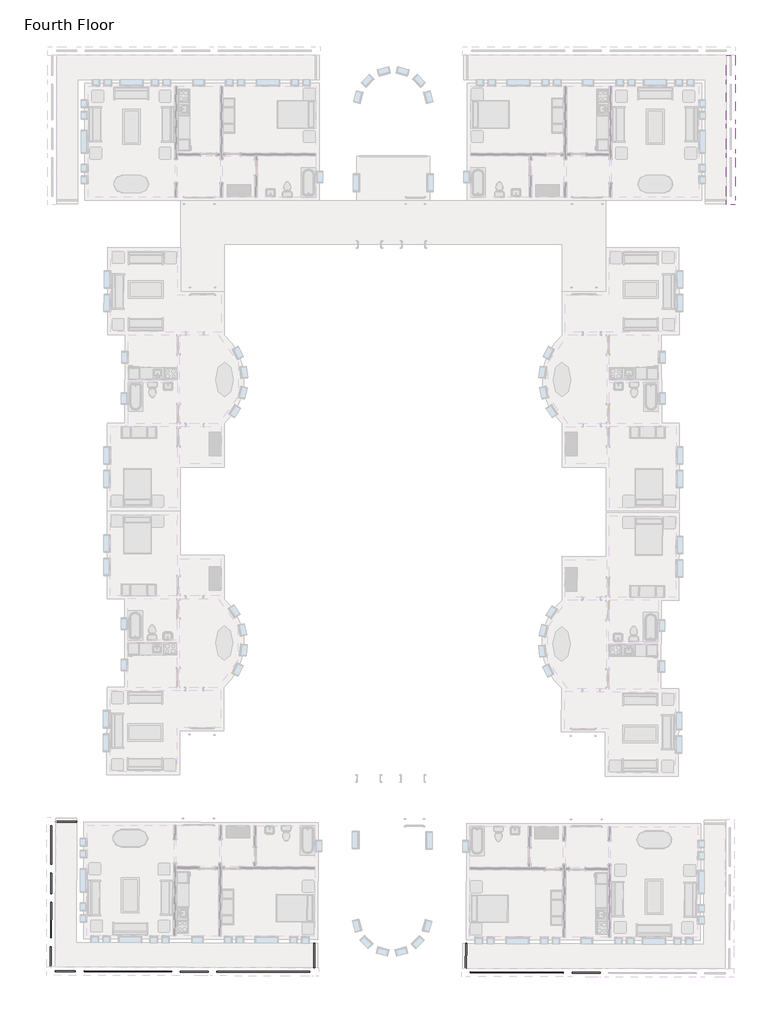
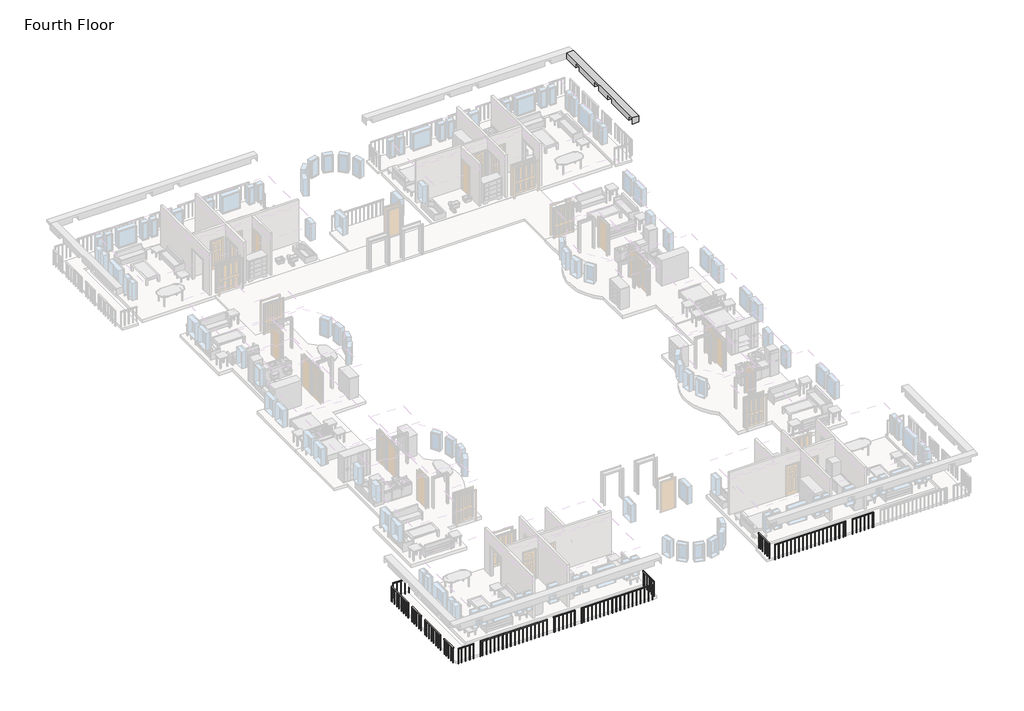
# One storey, part 4 of 8: 13 railings, 1 beam.
"""IFC4 building model written with IfcOpenShell, lengths in millimetres."""

from ifc_helpers import new_model, si_unit, frame, origin, place, context, project, spatial, polyline, outline, extrude, faceted_brep, element, save

model = new_model("IFC4")

# Units and contexts
model_context = context("Model", 3, world=origin())
ifc_project = project(units=[si_unit("LENGTHUNIT", "METRE", prefix="MILLI")], contexts=[model_context])

# Site, building, storey
site = spatial("IfcSite", under=ifc_project)
building = spatial("IfcBuilding", under=site)
storey = spatial("IfcBuildingStorey", under=building, Name="Fourth Floor", Elevation=9144.0)

# Beam
placement = place(None, origin())
element("IfcBeam", 1, ObjectType="M_Concrete-Rectangular Beam : 450 x 450", at=placement, inside=storey, context=model_context, shape_type="Brep", body=[
    faceted_brep([(-1193.3416203, -3743.8811614, 12192.0), (-1643.3416203, -3743.8811614, 12192.0), (-1643.3416203, -3743.8811614, 11742.0), (-1193.3416203, -3743.8811614, 11742.0), (-1193.3416203, 4031.1188386, 12192.0), (-1643.3416203, 4031.1188386, 12192.0), (-1643.3416203, 4031.1188386, 12042.0), (-1643.3416203, 4031.1188386, 11742.0), (-1643.3416203, 2981.1188386, 11742.0), (-1643.3416203, 2981.1188386, 12042.0), (-1643.3416203, 2531.1188386, 12042.0), (-1643.3416203, 2531.1188386, 11742.0), (-1643.3416203, 681.1188386, 11742.0), (-1643.3416203, 681.1188386, 12042.0), (-1643.3416203, 231.1188386, 12042.0), (-1643.3416203, 231.1188386, 11742.0), (-1643.3416203, -845.3811614, 11742.0), (-1643.3416203, -845.3811614, 12042.0), (-1643.3416203, -1295.3811614, 12042.0), (-1643.3416203, -1295.3811614, 11742.0), (-1643.3416203, -3289.8811614, 11742.0), (-1643.3416203, -3289.8811614, 12042.0), (-1643.3416203, -3739.8811614, 12042.0), (-1643.3416203, -3739.8811614, 11742.0), (-1193.3416203, -3739.8811614, 11742.0), (-1193.3416203, -3739.8811614, 12042.0), (-1193.3416203, -3289.8811614, 12042.0), (-1193.3416203, -3289.8811614, 11742.0), (-1193.3416203, -1295.3811614, 11742.0), (-1193.3416203, -1295.3811614, 12042.0), (-1193.3416203, -845.3811614, 12042.0), (-1193.3416203, -845.3811614, 11742.0), (-1193.3416203, 231.1188386, 11742.0), (-1193.3416203, 231.1188386, 12042.0), (-1193.3416203, 681.1188386, 12042.0), (-1193.3416203, 681.1188386, 11742.0), (-1193.3416203, 2531.1188386, 11742.0), (-1193.3416203, 2531.1188386, 12042.0), (-1193.3416203, 2981.1188386, 12042.0), (-1193.3416203, 2981.1188386, 11742.0), (-1193.3416203, 4031.1188386, 11742.0), (-1193.3416203, 4031.1188386, 12042.0)], [[[0, 1, 2, 3]], [[1, 0, 4, 5]], [[2, 1, 5, 6, 7, 8, 9, 10, 11, 12, 13, 14, 15, 16, 17, 18, 19, 20, 21, 22, 23]], [[3, 2, 23, 24]], [[0, 3, 24, 25, 26, 27, 28, 29, 30, 31, 32, 33, 34, 35, 36, 37, 38, 39, 40, 41, 4]], [[5, 4, 41, 40, 7, 6]], [[10, 37, 36, 11]], [[38, 9, 8, 39]], [[37, 10, 9, 38]], [[7, 40, 39, 8]], [[14, 33, 32, 15]], [[34, 13, 12, 35]], [[33, 14, 13, 34]], [[11, 36, 35, 12]], [[18, 29, 28, 19]], [[30, 17, 16, 31]], [[29, 18, 17, 30]], [[15, 32, 31, 16]], [[26, 21, 20, 27]], [[25, 22, 21, 26]], [[22, 25, 24, 23]], [[19, 28, 27, 20]]]),
])

# Railings
element("IfcRailing", 2, ObjectType="1100mm", at=placement, inside=storey, context=model_context, shape_type="SweptSolid", body=[
    extrude(outline(polyline([(-14954.7371889, -43662.8708828), (-14954.5924462, -43612.8710923), (-10112.6127346, -43626.8879749), (-10112.7574773, -43676.8877654), (-14954.7371889, -43662.8708828)])), frame((0.0, 0.0, 10194.0), z_axis=(0.0, 0.0, 1.0), x_axis=(1.0, 0.0, 0.0)), (0.0, 0.0, 1.0), 50.0),
    extrude(outline(polyline([(-10292.1481682, -43638.8682963), (-10267.1482729, -43638.9406676), (-10267.2206443, -43663.9405629), (-10292.2205395, -43663.8681915), (-10292.1481682, -43638.8682963)])), frame((0.0, 0.0, 9144.0), z_axis=(0.0, 0.0, 1.0), x_axis=(1.0, 0.0, 0.0)), (0.0, 0.0, 1.0), 1050.0),
    extrude(outline(polyline([(-10567.1470159, -43638.0722115), (-10542.1471207, -43638.1445828), (-10542.219492, -43663.144478), (-10567.2193872, -43663.0721067), (-10567.1470159, -43638.0722115)])), frame((0.0, 0.0, 9144.0), z_axis=(0.0, 0.0, 1.0), x_axis=(1.0, 0.0, 0.0)), (0.0, 0.0, 1.0), 1050.0),
    extrude(outline(polyline([(-10842.1458636, -43637.2761266), (-10817.1459684, -43637.348498), (-10817.2183397, -43662.3483932), (-10842.218235, -43662.2760219), (-10842.1458636, -43637.2761266)])), frame((0.0, 0.0, 9144.0), z_axis=(0.0, 0.0, 1.0), x_axis=(1.0, 0.0, 0.0)), (0.0, 0.0, 1.0), 1050.0),
    extrude(outline(polyline([(-11117.1447113, -43636.4800418), (-11092.1448161, -43636.5524131), (-11092.2171874, -43661.5523084), (-11117.2170827, -43661.479937), (-11117.1447113, -43636.4800418)])), frame((0.0, 0.0, 9144.0), z_axis=(0.0, 0.0, 1.0), x_axis=(1.0, 0.0, 0.0)), (0.0, 0.0, 1.0), 1050.0),
    extrude(outline(polyline([(-11392.1435591, -43635.683957), (-11367.1436638, -43635.7563283), (-11367.2160352, -43660.7562236), (-11392.2159304, -43660.6838522), (-11392.1435591, -43635.683957)])), frame((0.0, 0.0, 9144.0), z_axis=(0.0, 0.0, 1.0), x_axis=(1.0, 0.0, 0.0)), (0.0, 0.0, 1.0), 1050.0),
    extrude(outline(polyline([(-11667.1424068, -43634.8878721), (-11642.1425115, -43634.9602435), (-11642.2148829, -43659.9601387), (-11667.2147781, -43659.8877674), (-11667.1424068, -43634.8878721)])), frame((0.0, 0.0, 9144.0), z_axis=(0.0, 0.0, 1.0), x_axis=(1.0, 0.0, 0.0)), (0.0, 0.0, 1.0), 1050.0),
    extrude(outline(polyline([(-11942.1412545, -43634.0917873), (-11917.1413593, -43634.1641587), (-11917.2137306, -43659.1640539), (-11942.2136259, -43659.0916826), (-11942.1412545, -43634.0917873)])), frame((0.0, 0.0, 9144.0), z_axis=(0.0, 0.0, 1.0), x_axis=(1.0, 0.0, 0.0)), (0.0, 0.0, 1.0), 1050.0),
    extrude(outline(polyline([(-12217.1401022, -43633.2957025), (-12192.140207, -43633.3680738), (-12192.2125783, -43658.3679691), (-12217.2124736, -43658.2955977), (-12217.1401022, -43633.2957025)])), frame((0.0, 0.0, 9144.0), z_axis=(0.0, 0.0, 1.0), x_axis=(1.0, 0.0, 0.0)), (0.0, 0.0, 1.0), 1050.0),
    extrude(outline(polyline([(-12492.13895, -43632.4996177), (-12467.1390547, -43632.571989), (-12467.2114261, -43657.5718843), (-12492.2113213, -43657.4995129), (-12492.13895, -43632.4996177)])), frame((0.0, 0.0, 9144.0), z_axis=(0.0, 0.0, 1.0), x_axis=(1.0, 0.0, 0.0)), (0.0, 0.0, 1.0), 1050.0),
    extrude(outline(polyline([(-12767.1377977, -43631.7035328), (-12742.1379024, -43631.7759042), (-12742.2102738, -43656.7757994), (-12767.210169, -43656.7034281), (-12767.1377977, -43631.7035328)])), frame((0.0, 0.0, 9144.0), z_axis=(0.0, 0.0, 1.0), x_axis=(1.0, 0.0, 0.0)), (0.0, 0.0, 1.0), 1050.0),
    extrude(outline(polyline([(-13042.1366454, -43630.907448), (-13017.1367502, -43630.9798194), (-13017.2091215, -43655.9797146), (-13042.2090168, -43655.9073433), (-13042.1366454, -43630.907448)])), frame((0.0, 0.0, 9144.0), z_axis=(0.0, 0.0, 1.0), x_axis=(1.0, 0.0, 0.0)), (0.0, 0.0, 1.0), 1050.0),
    extrude(outline(polyline([(-13317.1354931, -43630.1113632), (-13292.1355979, -43630.1837345), (-13292.2079692, -43655.1836298), (-13317.2078645, -43655.1112584), (-13317.1354931, -43630.1113632)])), frame((0.0, 0.0, 9144.0), z_axis=(0.0, 0.0, 1.0), x_axis=(1.0, 0.0, 0.0)), (0.0, 0.0, 1.0), 1050.0),
    extrude(outline(polyline([(-13592.1343409, -43629.3152784), (-13567.1344456, -43629.3876497), (-13567.206817, -43654.387545), (-13592.2067122, -43654.3151736), (-13592.1343409, -43629.3152784)])), frame((0.0, 0.0, 9144.0), z_axis=(0.0, 0.0, 1.0), x_axis=(1.0, 0.0, 0.0)), (0.0, 0.0, 1.0), 1050.0),
    extrude(outline(polyline([(-13867.1331886, -43628.5191935), (-13842.1332933, -43628.5915649), (-13842.2056647, -43653.5914601), (-13867.2055599, -43653.5190888), (-13867.1331886, -43628.5191935)])), frame((0.0, 0.0, 9144.0), z_axis=(0.0, 0.0, 1.0), x_axis=(1.0, 0.0, 0.0)), (0.0, 0.0, 1.0), 1050.0),
    extrude(outline(polyline([(-14142.1320363, -43627.7231087), (-14117.1321411, -43627.7954801), (-14117.2045124, -43652.7953753), (-14142.2044076, -43652.723004), (-14142.1320363, -43627.7231087)])), frame((0.0, 0.0, 9144.0), z_axis=(0.0, 0.0, 1.0), x_axis=(1.0, 0.0, 0.0)), (0.0, 0.0, 1.0), 1050.0),
    extrude(outline(polyline([(-14417.130884, -43626.9270239), (-14392.1309888, -43626.9993952), (-14392.2033601, -43651.9992905), (-14417.2032554, -43651.9269191), (-14417.130884, -43626.9270239)])), frame((0.0, 0.0, 9144.0), z_axis=(0.0, 0.0, 1.0), x_axis=(1.0, 0.0, 0.0)), (0.0, 0.0, 1.0), 1050.0),
    extrude(outline(polyline([(-14692.1297317, -43626.1309391), (-14667.1298365, -43626.2033104), (-14667.2022078, -43651.2032057), (-14692.2021031, -43651.1308343), (-14692.1297317, -43626.1309391)])), frame((0.0, 0.0, 9144.0), z_axis=(0.0, 0.0, 1.0), x_axis=(1.0, 0.0, 0.0)), (0.0, 0.0, 1.0), 1050.0),
    extrude(outline(polyline([(-10137.6488155, -43639.3155512), (-10112.6489203, -43639.3879226), (-10112.7212916, -43664.3878178), (-10137.7211869, -43664.3154465), (-10137.6488155, -43639.3155512)])), frame((0.0, 0.0, 9144.0), z_axis=(0.0, 0.0, 1.0), x_axis=(1.0, 0.0, 0.0)), (0.0, 0.0, 1.0), 1050.0),
    extrude(outline(polyline([(-14954.6286318, -43625.3710399), (-14929.6287366, -43625.4434113), (-14929.7011079, -43650.4433065), (-14954.7010032, -43650.3709351), (-14954.6286318, -43625.3710399)])), frame((0.0, 0.0, 9144.0), z_axis=(0.0, 0.0, 1.0), x_axis=(1.0, 0.0, 0.0)), (0.0, 0.0, 1.0), 1050.0),
])
element("IfcRailing", 3, ObjectType="1100mm", at=placement, inside=storey, context=model_context, shape_type="SweptSolid", body=[
    extrude(outline(polyline([(-9662.7593629, -43678.1904497), (-9662.6146202, -43628.1906592), (-8212.6206958, -43632.3881974), (-8212.7654385, -43682.3879879), (-9662.7593629, -43678.1904497)])), frame((0.0, 0.0, 10194.0), z_axis=(0.0, 0.0, 1.0), x_axis=(1.0, 0.0, 0.0)), (0.0, 0.0, 1.0), 50.0),
    extrude(outline(polyline([(-8300.1565149, -43644.6348453), (-8275.1566196, -43644.7072166), (-8275.228991, -43669.7071119), (-8300.2288862, -43669.6347405), (-8300.1565149, -43644.6348453)])), frame((0.0, 0.0, 9144.0), z_axis=(0.0, 0.0, 1.0), x_axis=(1.0, 0.0, 0.0)), (0.0, 0.0, 1.0), 1050.0),
    extrude(outline(polyline([(-8575.1553626, -43643.8387604), (-8550.1554673, -43643.9111318), (-8550.2278387, -43668.911027), (-8575.2277339, -43668.8386557), (-8575.1553626, -43643.8387604)])), frame((0.0, 0.0, 9144.0), z_axis=(0.0, 0.0, 1.0), x_axis=(1.0, 0.0, 0.0)), (0.0, 0.0, 1.0), 1050.0),
    extrude(outline(polyline([(-8850.1542103, -43643.0426756), (-8825.1543151, -43643.115047), (-8825.2266864, -43668.1149422), (-8850.2265816, -43668.0425709), (-8850.1542103, -43643.0426756)])), frame((0.0, 0.0, 9144.0), z_axis=(0.0, 0.0, 1.0), x_axis=(1.0, 0.0, 0.0)), (0.0, 0.0, 1.0), 1050.0),
    extrude(outline(polyline([(-9125.153058, -43642.2465908), (-9100.1531628, -43642.3189621), (-9100.2255341, -43667.3188574), (-9125.2254294, -43667.246486), (-9125.153058, -43642.2465908)])), frame((0.0, 0.0, 9144.0), z_axis=(0.0, 0.0, 1.0), x_axis=(1.0, 0.0, 0.0)), (0.0, 0.0, 1.0), 1050.0),
    extrude(outline(polyline([(-9400.1519057, -43641.450506), (-9375.1520105, -43641.5228773), (-9375.2243818, -43666.5227726), (-9400.2242771, -43666.4504012), (-9400.1519057, -43641.450506)])), frame((0.0, 0.0, 9144.0), z_axis=(0.0, 0.0, 1.0), x_axis=(1.0, 0.0, 0.0)), (0.0, 0.0, 1.0), 1050.0),
    extrude(outline(polyline([(-8237.6567767, -43644.8157736), (-8212.6568815, -43644.888145), (-8212.7292528, -43669.8880402), (-8237.7291481, -43669.8156689), (-8237.6567767, -43644.8157736)])), frame((0.0, 0.0, 9144.0), z_axis=(0.0, 0.0, 1.0), x_axis=(1.0, 0.0, 0.0)), (0.0, 0.0, 1.0), 1050.0),
    extrude(outline(polyline([(-9662.6508058, -43640.6906068), (-9637.6509106, -43640.7629782), (-9637.7232819, -43665.7628734), (-9662.7231772, -43665.6905021), (-9662.6508058, -43640.6906068)])), frame((0.0, 0.0, 9144.0), z_axis=(0.0, 0.0, 1.0), x_axis=(1.0, 0.0, 0.0)), (0.0, 0.0, 1.0), 1050.0),
])
element("IfcRailing", 4, ObjectType="1100mm", at=placement, inside=storey, context=model_context, shape_type="SweptSolid", body=[
    extrude(outline(polyline([(-15154.0126374, -43412.2929595), (-15204.0124279, -43412.1482168), (-15200.3214891, -42137.1535592), (-15150.3216986, -42137.2983019), (-15154.0126374, -43412.2929595)])), frame((0.0, 0.0, 10194.0), z_axis=(0.0, 0.0, 1.0), x_axis=(1.0, 0.0, 0.0)), (0.0, 0.0, 1.0), 50.0),
    extrude(outline(polyline([(-15188.3643266, -42324.6889592), (-15188.2919553, -42299.689064), (-15163.29206, -42299.7614353), (-15163.3644314, -42324.7613306), (-15188.3643266, -42324.6889592)])), frame((0.0, 0.0, 9144.0), z_axis=(0.0, 0.0, 1.0), x_axis=(1.0, 0.0, 0.0)), (0.0, 0.0, 1.0), 1050.0),
    extrude(outline(polyline([(-15189.1604114, -42599.6878069), (-15189.0880401, -42574.6879117), (-15164.0881448, -42574.760283), (-15164.1605162, -42599.7601783), (-15189.1604114, -42599.6878069)])), frame((0.0, 0.0, 9144.0), z_axis=(0.0, 0.0, 1.0), x_axis=(1.0, 0.0, 0.0)), (0.0, 0.0, 1.0), 1050.0),
    extrude(outline(polyline([(-15189.9564963, -42874.6866547), (-15189.8841249, -42849.6867594), (-15164.8842297, -42849.7591308), (-15164.956601, -42874.759026), (-15189.9564963, -42874.6866547)])), frame((0.0, 0.0, 9144.0), z_axis=(0.0, 0.0, 1.0), x_axis=(1.0, 0.0, 0.0)), (0.0, 0.0, 1.0), 1050.0),
    extrude(outline(polyline([(-15190.7525811, -43149.6855024), (-15190.6802097, -43124.6856071), (-15165.6803145, -43124.7579785), (-15165.7526858, -43149.7578737), (-15190.7525811, -43149.6855024)])), frame((0.0, 0.0, 9144.0), z_axis=(0.0, 0.0, 1.0), x_axis=(1.0, 0.0, 0.0)), (0.0, 0.0, 1.0), 1050.0),
    extrude(outline(polyline([(-15187.8939128, -42162.1896401), (-15187.8215415, -42137.1897449), (-15162.8216462, -42137.2621162), (-15162.8940176, -42162.2620115), (-15187.8939128, -42162.1896401)])), frame((0.0, 0.0, 9144.0), z_axis=(0.0, 0.0, 1.0), x_axis=(1.0, 0.0, 0.0)), (0.0, 0.0, 1.0), 1050.0),
    extrude(outline(polyline([(-15191.5124802, -43412.1844025), (-15191.4401089, -43387.1845072), (-15166.4402136, -43387.2568786), (-15166.512585, -43412.2567738), (-15191.5124802, -43412.1844025)])), frame((0.0, 0.0, 9144.0), z_axis=(0.0, 0.0, 1.0), x_axis=(1.0, 0.0, 0.0)), (0.0, 0.0, 1.0), 1050.0),
])
element("IfcRailing", 5, ObjectType="1100mm", at=placement, inside=storey, context=model_context, shape_type="SweptSolid", body=[
    extrude(outline(polyline([(-23286.0575364, -43588.7526169), (-23286.2022791, -43638.7524074), (-28128.1819906, -43624.7355247), (-28128.0372479, -43574.7357342), (-23286.0575364, -43588.7526169)])), frame((0.0, 0.0, 10194.0), z_axis=(0.0, 0.0, 1.0), x_axis=(1.0, 0.0, 0.0)), (0.0, 0.0, 1.0), 50.0),
    extrude(outline(polyline([(-27948.5741857, -43587.7553081), (-27948.6465571, -43612.7552034), (-27973.6464523, -43612.682832), (-27973.574081, -43587.6829368), (-27948.5741857, -43587.7553081)])), frame((0.0, 0.0, 9144.0), z_axis=(0.0, 0.0, 1.0), x_axis=(1.0, 0.0, 0.0)), (0.0, 0.0, 1.0), 1050.0),
    extrude(outline(polyline([(-27673.575338, -43588.551393), (-27673.6477093, -43613.5512882), (-27698.6476046, -43613.4789169), (-27698.5752332, -43588.4790216), (-27673.575338, -43588.551393)])), frame((0.0, 0.0, 9144.0), z_axis=(0.0, 0.0, 1.0), x_axis=(1.0, 0.0, 0.0)), (0.0, 0.0, 1.0), 1050.0),
    extrude(outline(polyline([(-27398.5764903, -43589.3474778), (-27398.6488616, -43614.347373), (-27423.6487569, -43614.2750017), (-27423.5763855, -43589.2751064), (-27398.5764903, -43589.3474778)])), frame((0.0, 0.0, 9144.0), z_axis=(0.0, 0.0, 1.0), x_axis=(1.0, 0.0, 0.0)), (0.0, 0.0, 1.0), 1050.0),
    extrude(outline(polyline([(-27123.5776425, -43590.1435626), (-27123.6500139, -43615.1434579), (-27148.6499091, -43615.0710865), (-27148.5775378, -43590.0711913), (-27123.5776425, -43590.1435626)])), frame((0.0, 0.0, 9144.0), z_axis=(0.0, 0.0, 1.0), x_axis=(1.0, 0.0, 0.0)), (0.0, 0.0, 1.0), 1050.0),
    extrude(outline(polyline([(-26848.5787948, -43590.9396474), (-26848.6511662, -43615.9395427), (-26873.6510614, -43615.8671713), (-26873.5786901, -43590.8672761), (-26848.5787948, -43590.9396474)])), frame((0.0, 0.0, 9144.0), z_axis=(0.0, 0.0, 1.0), x_axis=(1.0, 0.0, 0.0)), (0.0, 0.0, 1.0), 1050.0),
    extrude(outline(polyline([(-26573.5799471, -43591.7357323), (-26573.6523184, -43616.7356275), (-26598.6522137, -43616.6632562), (-26598.5798423, -43591.6633609), (-26573.5799471, -43591.7357323)])), frame((0.0, 0.0, 9144.0), z_axis=(0.0, 0.0, 1.0), x_axis=(1.0, 0.0, 0.0)), (0.0, 0.0, 1.0), 1050.0),
    extrude(outline(polyline([(-26298.5810994, -43592.5318171), (-26298.6534707, -43617.5317123), (-26323.653366, -43617.459341), (-26323.5809946, -43592.4594458), (-26298.5810994, -43592.5318171)])), frame((0.0, 0.0, 9144.0), z_axis=(0.0, 0.0, 1.0), x_axis=(1.0, 0.0, 0.0)), (0.0, 0.0, 1.0), 1050.0),
    extrude(outline(polyline([(-26023.5822516, -43593.3279019), (-26023.654623, -43618.3277972), (-26048.6545182, -43618.2554258), (-26048.5821469, -43593.2555306), (-26023.5822516, -43593.3279019)])), frame((0.0, 0.0, 9144.0), z_axis=(0.0, 0.0, 1.0), x_axis=(1.0, 0.0, 0.0)), (0.0, 0.0, 1.0), 1050.0),
    extrude(outline(polyline([(-25748.5834039, -43594.1239868), (-25748.6557753, -43619.123882), (-25773.6556705, -43619.0515107), (-25773.5832992, -43594.0516154), (-25748.5834039, -43594.1239868)])), frame((0.0, 0.0, 9144.0), z_axis=(0.0, 0.0, 1.0), x_axis=(1.0, 0.0, 0.0)), (0.0, 0.0, 1.0), 1050.0),
    extrude(outline(polyline([(-25473.5845562, -43594.9200716), (-25473.6569275, -43619.9199668), (-25498.6568228, -43619.8475955), (-25498.5844514, -43594.8477002), (-25473.5845562, -43594.9200716)])), frame((0.0, 0.0, 9144.0), z_axis=(0.0, 0.0, 1.0), x_axis=(1.0, 0.0, 0.0)), (0.0, 0.0, 1.0), 1050.0),
    extrude(outline(polyline([(-25198.5857085, -43595.7161564), (-25198.6580798, -43620.7160517), (-25223.6579751, -43620.6436803), (-25223.5856037, -43595.6437851), (-25198.5857085, -43595.7161564)])), frame((0.0, 0.0, 9144.0), z_axis=(0.0, 0.0, 1.0), x_axis=(1.0, 0.0, 0.0)), (0.0, 0.0, 1.0), 1050.0),
    extrude(outline(polyline([(-24923.5868608, -43596.5122412), (-24923.6592321, -43621.5121365), (-24948.6591273, -43621.4397651), (-24948.586756, -43596.4398699), (-24923.5868608, -43596.5122412)])), frame((0.0, 0.0, 9144.0), z_axis=(0.0, 0.0, 1.0), x_axis=(1.0, 0.0, 0.0)), (0.0, 0.0, 1.0), 1050.0),
    extrude(outline(polyline([(-24648.588013, -43597.3083261), (-24648.6603844, -43622.3082213), (-24673.6602796, -43622.23585), (-24673.5879083, -43597.2359547), (-24648.588013, -43597.3083261)])), frame((0.0, 0.0, 9144.0), z_axis=(0.0, 0.0, 1.0), x_axis=(1.0, 0.0, 0.0)), (0.0, 0.0, 1.0), 1050.0),
    extrude(outline(polyline([(-24373.5891653, -43598.1044109), (-24373.6615367, -43623.1043061), (-24398.6614319, -43623.0319348), (-24398.5890606, -43598.0320395), (-24373.5891653, -43598.1044109)])), frame((0.0, 0.0, 9144.0), z_axis=(0.0, 0.0, 1.0), x_axis=(1.0, 0.0, 0.0)), (0.0, 0.0, 1.0), 1050.0),
    extrude(outline(polyline([(-24098.5903176, -43598.9004957), (-24098.6626889, -43623.900391), (-24123.6625842, -43623.8280196), (-24123.5902128, -43598.8281244), (-24098.5903176, -43598.9004957)])), frame((0.0, 0.0, 9144.0), z_axis=(0.0, 0.0, 1.0), x_axis=(1.0, 0.0, 0.0)), (0.0, 0.0, 1.0), 1050.0),
    extrude(outline(polyline([(-23823.5914699, -43599.6965805), (-23823.6638412, -43624.6964758), (-23848.6637365, -43624.6241044), (-23848.5913651, -43599.6242092), (-23823.5914699, -43599.6965805)])), frame((0.0, 0.0, 9144.0), z_axis=(0.0, 0.0, 1.0), x_axis=(1.0, 0.0, 0.0)), (0.0, 0.0, 1.0), 1050.0),
    extrude(outline(polyline([(-23548.5926221, -43600.4926654), (-23548.6649935, -43625.4925606), (-23573.6648887, -43625.4201893), (-23573.5925174, -43600.420294), (-23548.5926221, -43600.4926654)])), frame((0.0, 0.0, 9144.0), z_axis=(0.0, 0.0, 1.0), x_axis=(1.0, 0.0, 0.0)), (0.0, 0.0, 1.0), 1050.0),
    extrude(outline(polyline([(-28103.0735383, -43587.3080532), (-28103.1459097, -43612.3079485), (-28128.1458049, -43612.2355771), (-28128.0734336, -43587.2356819), (-28103.0735383, -43587.3080532)])), frame((0.0, 0.0, 9144.0), z_axis=(0.0, 0.0, 1.0), x_axis=(1.0, 0.0, 0.0)), (0.0, 0.0, 1.0), 1050.0),
    extrude(outline(polyline([(-23286.093722, -43601.2525645), (-23286.1660934, -43626.2524598), (-23311.1659886, -43626.1800884), (-23311.0936173, -43601.1801932), (-23286.093722, -43601.2525645)])), frame((0.0, 0.0, 9144.0), z_axis=(0.0, 0.0, 1.0), x_axis=(1.0, 0.0, 0.0)), (0.0, 0.0, 1.0), 1050.0),
])
element("IfcRailing", 6, ObjectType="1100mm", at=placement, inside=storey, context=model_context, shape_type="SweptSolid", body=[
    extrude(outline(polyline([(-28578.0353624, -43573.43305), (-28578.1801051, -43623.4328405), (-30028.1740294, -43619.2353023), (-30028.0292867, -43569.2355118), (-28578.0353624, -43573.43305)])), frame((0.0, 0.0, 10194.0), z_axis=(0.0, 0.0, 1.0), x_axis=(1.0, 0.0, 0.0)), (0.0, 0.0, 1.0), 50.0),
    extrude(outline(polyline([(-29940.565839, -43581.9887591), (-29940.6382104, -43606.9886544), (-29965.6381056, -43606.916283), (-29965.5657343, -43581.9163878), (-29940.565839, -43581.9887591)])), frame((0.0, 0.0, 9144.0), z_axis=(0.0, 0.0, 1.0), x_axis=(1.0, 0.0, 0.0)), (0.0, 0.0, 1.0), 1050.0),
    extrude(outline(polyline([(-29665.5669913, -43582.784844), (-29665.6393627, -43607.7847392), (-29690.6392579, -43607.7123679), (-29690.5668866, -43582.7124726), (-29665.5669913, -43582.784844)])), frame((0.0, 0.0, 9144.0), z_axis=(0.0, 0.0, 1.0), x_axis=(1.0, 0.0, 0.0)), (0.0, 0.0, 1.0), 1050.0),
    extrude(outline(polyline([(-29390.5681436, -43583.5809288), (-29390.6405149, -43608.580824), (-29415.6404102, -43608.5084527), (-29415.5680388, -43583.5085574), (-29390.5681436, -43583.5809288)])), frame((0.0, 0.0, 9144.0), z_axis=(0.0, 0.0, 1.0), x_axis=(1.0, 0.0, 0.0)), (0.0, 0.0, 1.0), 1050.0),
    extrude(outline(polyline([(-29115.5692959, -43584.3770136), (-29115.6416672, -43609.3769089), (-29140.6415625, -43609.3045375), (-29140.5691911, -43584.3046423), (-29115.5692959, -43584.3770136)])), frame((0.0, 0.0, 9144.0), z_axis=(0.0, 0.0, 1.0), x_axis=(1.0, 0.0, 0.0)), (0.0, 0.0, 1.0), 1050.0),
    extrude(outline(polyline([(-28840.5704481, -43585.1730985), (-28840.6428195, -43610.1729937), (-28865.6427147, -43610.1006223), (-28865.5703434, -43585.1007271), (-28840.5704481, -43585.1730985)])), frame((0.0, 0.0, 9144.0), z_axis=(0.0, 0.0, 1.0), x_axis=(1.0, 0.0, 0.0)), (0.0, 0.0, 1.0), 1050.0),
    extrude(outline(polyline([(-30003.0655771, -43581.8078308), (-30003.1379485, -43606.807726), (-30028.1378437, -43606.7353547), (-30028.0654724, -43581.7354594), (-30003.0655771, -43581.8078308)])), frame((0.0, 0.0, 9144.0), z_axis=(0.0, 0.0, 1.0), x_axis=(1.0, 0.0, 0.0)), (0.0, 0.0, 1.0), 1050.0),
    extrude(outline(polyline([(-28578.071548, -43585.9329976), (-28578.1439194, -43610.9328929), (-28603.1438146, -43610.8605215), (-28603.0714433, -43585.8606263), (-28578.071548, -43585.9329976)])), frame((0.0, 0.0, 9144.0), z_axis=(0.0, 0.0, 1.0), x_axis=(1.0, 0.0, 0.0)), (0.0, 0.0, 1.0), 1050.0),
])
element("IfcRailing", 7, ObjectType="1100mm", at=placement, inside=storey, context=model_context, shape_type="SweptSolid", body=[
    extrude(outline(polyline([(-30478.0274012, -43567.9328275), (-30478.1721439, -43617.932618), (-35028.1530789, -43604.7610327), (-35028.0083362, -43554.7612422), (-30478.0274012, -43567.9328275)])), frame((0.0, 0.0, 10194.0), z_axis=(0.0, 0.0, 1.0), x_axis=(1.0, 0.0, 0.0)), (0.0, 0.0, 1.0), 50.0),
    extrude(outline(polyline([(-34865.5452028, -43567.7316036), (-34865.6175741, -43592.7314989), (-34890.6174694, -43592.6591275), (-34890.545098, -43567.6592323), (-34865.5452028, -43567.7316036)])), frame((0.0, 0.0, 9144.0), z_axis=(0.0, 0.0, 1.0), x_axis=(1.0, 0.0, 0.0)), (0.0, 0.0, 1.0), 1050.0),
    extrude(outline(polyline([(-34590.5463551, -43568.5276884), (-34590.6187264, -43593.5275837), (-34615.6186217, -43593.4552123), (-34615.5462503, -43568.4553171), (-34590.5463551, -43568.5276884)])), frame((0.0, 0.0, 9144.0), z_axis=(0.0, 0.0, 1.0), x_axis=(1.0, 0.0, 0.0)), (0.0, 0.0, 1.0), 1050.0),
    extrude(outline(polyline([(-34315.5475073, -43569.3237733), (-34315.6198787, -43594.3236685), (-34340.6197739, -43594.2512972), (-34340.5474026, -43569.2514019), (-34315.5475073, -43569.3237733)])), frame((0.0, 0.0, 9144.0), z_axis=(0.0, 0.0, 1.0), x_axis=(1.0, 0.0, 0.0)), (0.0, 0.0, 1.0), 1050.0),
    extrude(outline(polyline([(-34040.5486596, -43570.1198581), (-34040.621031, -43595.1197533), (-34065.6209262, -43595.047382), (-34065.5485549, -43570.0474867), (-34040.5486596, -43570.1198581)])), frame((0.0, 0.0, 9144.0), z_axis=(0.0, 0.0, 1.0), x_axis=(1.0, 0.0, 0.0)), (0.0, 0.0, 1.0), 1050.0),
    extrude(outline(polyline([(-33765.5498119, -43570.9159429), (-33765.6221833, -43595.9158382), (-33790.6220785, -43595.8434668), (-33790.5497072, -43570.8435716), (-33765.5498119, -43570.9159429)])), frame((0.0, 0.0, 9144.0), z_axis=(0.0, 0.0, 1.0), x_axis=(1.0, 0.0, 0.0)), (0.0, 0.0, 1.0), 1050.0),
    extrude(outline(polyline([(-33490.5509642, -43571.7120277), (-33490.6233355, -43596.711923), (-33515.6232308, -43596.6395516), (-33515.5508594, -43571.6396564), (-33490.5509642, -43571.7120277)])), frame((0.0, 0.0, 9144.0), z_axis=(0.0, 0.0, 1.0), x_axis=(1.0, 0.0, 0.0)), (0.0, 0.0, 1.0), 1050.0),
    extrude(outline(polyline([(-33215.5521165, -43572.5081126), (-33215.6244878, -43597.5080078), (-33240.6243831, -43597.4356365), (-33240.5520117, -43572.4357412), (-33215.5521165, -43572.5081126)])), frame((0.0, 0.0, 9144.0), z_axis=(0.0, 0.0, 1.0), x_axis=(1.0, 0.0, 0.0)), (0.0, 0.0, 1.0), 1050.0),
    extrude(outline(polyline([(-32940.5532687, -43573.3041974), (-32940.6256401, -43598.3040926), (-32965.6255353, -43598.2317213), (-32965.553164, -43573.2318261), (-32940.5532687, -43573.3041974)])), frame((0.0, 0.0, 9144.0), z_axis=(0.0, 0.0, 1.0), x_axis=(1.0, 0.0, 0.0)), (0.0, 0.0, 1.0), 1050.0),
    extrude(outline(polyline([(-32665.554421, -43574.1002822), (-32665.6267924, -43599.1001775), (-32690.6266876, -43599.0278061), (-32690.5543163, -43574.0279109), (-32665.554421, -43574.1002822)])), frame((0.0, 0.0, 9144.0), z_axis=(0.0, 0.0, 1.0), x_axis=(1.0, 0.0, 0.0)), (0.0, 0.0, 1.0), 1050.0),
    extrude(outline(polyline([(-32390.5555733, -43574.8963671), (-32390.6279446, -43599.8962623), (-32415.6278399, -43599.823891), (-32415.5554685, -43574.8239957), (-32390.5555733, -43574.8963671)])), frame((0.0, 0.0, 9144.0), z_axis=(0.0, 0.0, 1.0), x_axis=(1.0, 0.0, 0.0)), (0.0, 0.0, 1.0), 1050.0),
    extrude(outline(polyline([(-32115.5567256, -43575.6924519), (-32115.6290969, -43600.6923471), (-32140.6289922, -43600.6199758), (-32140.5566208, -43575.6200805), (-32115.5567256, -43575.6924519)])), frame((0.0, 0.0, 9144.0), z_axis=(0.0, 0.0, 1.0), x_axis=(1.0, 0.0, 0.0)), (0.0, 0.0, 1.0), 1050.0),
    extrude(outline(polyline([(-31840.5578778, -43576.4885367), (-31840.6302492, -43601.488432), (-31865.6301444, -43601.4160606), (-31865.5577731, -43576.4161654), (-31840.5578778, -43576.4885367)])), frame((0.0, 0.0, 9144.0), z_axis=(0.0, 0.0, 1.0), x_axis=(1.0, 0.0, 0.0)), (0.0, 0.0, 1.0), 1050.0),
    extrude(outline(polyline([(-31565.5590301, -43577.2846215), (-31565.6314015, -43602.2845168), (-31590.6312967, -43602.2121454), (-31590.5589254, -43577.2122502), (-31565.5590301, -43577.2846215)])), frame((0.0, 0.0, 9144.0), z_axis=(0.0, 0.0, 1.0), x_axis=(1.0, 0.0, 0.0)), (0.0, 0.0, 1.0), 1050.0),
    extrude(outline(polyline([(-31290.5601824, -43578.0807064), (-31290.6325537, -43603.0806016), (-31315.632449, -43603.0082303), (-31315.5600776, -43578.008335), (-31290.5601824, -43578.0807064)])), frame((0.0, 0.0, 9144.0), z_axis=(0.0, 0.0, 1.0), x_axis=(1.0, 0.0, 0.0)), (0.0, 0.0, 1.0), 1050.0),
    extrude(outline(polyline([(-31015.5613347, -43578.8767912), (-31015.633706, -43603.8766864), (-31040.6336013, -43603.8043151), (-31040.5612299, -43578.8044198), (-31015.5613347, -43578.8767912)])), frame((0.0, 0.0, 9144.0), z_axis=(0.0, 0.0, 1.0), x_axis=(1.0, 0.0, 0.0)), (0.0, 0.0, 1.0), 1050.0),
    extrude(outline(polyline([(-30740.562487, -43579.672876), (-30740.6348583, -43604.6727713), (-30765.6347535, -43604.6003999), (-30765.5623822, -43579.6005047), (-30740.562487, -43579.672876)])), frame((0.0, 0.0, 9144.0), z_axis=(0.0, 0.0, 1.0), x_axis=(1.0, 0.0, 0.0)), (0.0, 0.0, 1.0), 1050.0),
    extrude(outline(polyline([(-35003.0446267, -43567.3335612), (-35003.116998, -43592.3334565), (-35028.1168933, -43592.2610851), (-35028.0445219, -43567.2611899), (-35003.0446267, -43567.3335612)])), frame((0.0, 0.0, 9144.0), z_axis=(0.0, 0.0, 1.0), x_axis=(1.0, 0.0, 0.0)), (0.0, 0.0, 1.0), 1050.0),
    extrude(outline(polyline([(-30478.0635869, -43580.4327752), (-30478.1359582, -43605.4326704), (-30503.1358534, -43605.3602991), (-30503.0634821, -43580.3604038), (-30478.0635869, -43580.4327752)])), frame((0.0, 0.0, 9144.0), z_axis=(0.0, 0.0, 1.0), x_axis=(1.0, 0.0, 0.0)), (0.0, 0.0, 1.0), 1050.0),
])
element("IfcRailing", 8, ObjectType="1100mm", at=placement, inside=storey, context=model_context, shape_type="SweptSolid", body=[
    extrude(outline(polyline([(-35478.0064507, -43553.458558), (-35478.1511934, -43603.4583485), (-36528.1467938, -43600.4187519), (-36528.0020511, -43550.4189614), (-35478.0064507, -43553.458558)])), frame((0.0, 0.0, 10194.0), z_axis=(0.0, 0.0, 1.0), x_axis=(1.0, 0.0, 0.0)), (0.0, 0.0, 1.0), 50.0),
    extrude(outline(polyline([(-36290.5392319, -43563.6064368), (-36290.6116033, -43588.606332), (-36315.6114985, -43588.5339607), (-36315.5391272, -43563.5340654), (-36290.5392319, -43563.6064368)])), frame((0.0, 0.0, 9144.0), z_axis=(0.0, 0.0, 1.0), x_axis=(1.0, 0.0, 0.0)), (0.0, 0.0, 1.0), 1050.0),
    extrude(outline(polyline([(-36015.5403842, -43564.4025216), (-36015.6127555, -43589.4024169), (-36040.6126508, -43589.3300455), (-36040.5402794, -43564.3301503), (-36015.5403842, -43564.4025216)])), frame((0.0, 0.0, 9144.0), z_axis=(0.0, 0.0, 1.0), x_axis=(1.0, 0.0, 0.0)), (0.0, 0.0, 1.0), 1050.0),
    extrude(outline(polyline([(-35740.5415365, -43565.1986064), (-35740.6139078, -43590.1985017), (-35765.6138031, -43590.1261303), (-35765.5414317, -43565.1262351), (-35740.5415365, -43565.1986064)])), frame((0.0, 0.0, 9144.0), z_axis=(0.0, 0.0, 1.0), x_axis=(1.0, 0.0, 0.0)), (0.0, 0.0, 1.0), 1050.0),
    extrude(outline(polyline([(-36503.0383415, -43562.9912803), (-36503.1107129, -43587.9911756), (-36528.1106081, -43587.9188042), (-36528.0382368, -43562.918909), (-36503.0383415, -43562.9912803)])), frame((0.0, 0.0, 9144.0), z_axis=(0.0, 0.0, 1.0), x_axis=(1.0, 0.0, 0.0)), (0.0, 0.0, 1.0), 1050.0),
    extrude(outline(polyline([(-35478.0426364, -43565.9585056), (-35478.1150077, -43590.9584008), (-35503.114903, -43590.8860295), (-35503.0425316, -43565.8861342), (-35478.0426364, -43565.9585056)])), frame((0.0, 0.0, 9144.0), z_axis=(0.0, 0.0, 1.0), x_axis=(1.0, 0.0, 0.0)), (0.0, 0.0, 1.0), 1050.0),
])
element("IfcRailing", 9, ObjectType="1100mm", at=placement, inside=storey, context=model_context, shape_type="SweptSolid", body=[
    extrude(outline(polyline([(-36727.4222423, -43349.8408286), (-36777.4220328, -43349.6960859), (-36774.3824362, -42299.7004855), (-36724.3826457, -42299.8452282), (-36727.4222423, -43349.8408286)])), frame((0.0, 0.0, 10194.0), z_axis=(0.0, 0.0, 1.0), x_axis=(1.0, 0.0, 0.0)), (0.0, 0.0, 1.0), 50.0),
    extrude(outline(polyline([(-36737.5701211, -42537.3080474), (-36762.5700163, -42537.235676), (-36762.497645, -42512.2357808), (-36737.4977498, -42512.3081521), (-36737.5701211, -42537.3080474)])), frame((0.0, 0.0, 9144.0), z_axis=(0.0, 0.0, 1.0), x_axis=(1.0, 0.0, 0.0)), (0.0, 0.0, 1.0), 1050.0),
    extrude(outline(polyline([(-36738.3662059, -42812.3068951), (-36763.3661012, -42812.2345238), (-36763.2937298, -42787.2346285), (-36738.2938346, -42787.3069999), (-36738.3662059, -42812.3068951)])), frame((0.0, 0.0, 9144.0), z_axis=(0.0, 0.0, 1.0), x_axis=(1.0, 0.0, 0.0)), (0.0, 0.0, 1.0), 1050.0),
    extrude(outline(polyline([(-36739.1622908, -43087.3057428), (-36764.162186, -43087.2333715), (-36764.0898147, -43062.2334762), (-36739.0899194, -43062.3058476), (-36739.1622908, -43087.3057428)])), frame((0.0, 0.0, 9144.0), z_axis=(0.0, 0.0, 1.0), x_axis=(1.0, 0.0, 0.0)), (0.0, 0.0, 1.0), 1050.0),
    extrude(outline(polyline([(-36736.9549646, -42324.8089378), (-36761.9548599, -42324.7365664), (-36761.8824885, -42299.7366712), (-36736.8825933, -42299.8090425), (-36736.9549646, -42324.8089378)])), frame((0.0, 0.0, 9144.0), z_axis=(0.0, 0.0, 1.0), x_axis=(1.0, 0.0, 0.0)), (0.0, 0.0, 1.0), 1050.0),
    extrude(outline(polyline([(-36739.9221899, -43349.8046429), (-36764.9220852, -43349.7322716), (-36764.8497138, -43324.7323763), (-36739.8498186, -43324.8047477), (-36739.9221899, -43349.8046429)])), frame((0.0, 0.0, 9144.0), z_axis=(0.0, 0.0, 1.0), x_axis=(1.0, 0.0, 0.0)), (0.0, 0.0, 1.0), 1050.0),
])
element("IfcRailing", 10, ObjectType="1100mm", at=placement, inside=storey, context=model_context, shape_type="SweptSolid", body=[
    extrude(outline(polyline([(-36723.0799614, -41849.8471137), (-36773.0797519, -41849.702371), (-36767.7242722, -39999.7101227), (-36717.7244817, -39999.8548654), (-36723.0799614, -41849.8471137)])), frame((0.0, 0.0, 10194.0), z_axis=(0.0, 0.0, 1.0), x_axis=(1.0, 0.0, 0.0)), (0.0, 0.0, 1.0), 50.0),
    extrude(outline(polyline([(-36730.8395857, -40212.3177894), (-36755.839481, -40212.245418), (-36755.7671096, -40187.2455228), (-36730.7672144, -40187.3178941), (-36730.8395857, -40212.3177894)])), frame((0.0, 0.0, 9144.0), z_axis=(0.0, 0.0, 1.0), x_axis=(1.0, 0.0, 0.0)), (0.0, 0.0, 1.0), 1050.0),
    extrude(outline(polyline([(-36731.6356706, -40487.3166371), (-36756.6355658, -40487.2442657), (-36756.5631945, -40462.2443705), (-36731.5632992, -40462.3167418), (-36731.6356706, -40487.3166371)])), frame((0.0, 0.0, 9144.0), z_axis=(0.0, 0.0, 1.0), x_axis=(1.0, 0.0, 0.0)), (0.0, 0.0, 1.0), 1050.0),
    extrude(outline(polyline([(-36732.4317554, -40762.3154848), (-36757.4316506, -40762.2431135), (-36757.3592793, -40737.2432182), (-36732.3593841, -40737.3155896), (-36732.4317554, -40762.3154848)])), frame((0.0, 0.0, 9144.0), z_axis=(0.0, 0.0, 1.0), x_axis=(1.0, 0.0, 0.0)), (0.0, 0.0, 1.0), 1050.0),
    extrude(outline(polyline([(-36733.2278402, -41037.3143325), (-36758.2277355, -41037.2419612), (-36758.1553641, -41012.2420659), (-36733.1554689, -41012.3144373), (-36733.2278402, -41037.3143325)])), frame((0.0, 0.0, 9144.0), z_axis=(0.0, 0.0, 1.0), x_axis=(1.0, 0.0, 0.0)), (0.0, 0.0, 1.0), 1050.0),
    extrude(outline(polyline([(-36734.0239251, -41312.3131802), (-36759.0238203, -41312.2408089), (-36758.951449, -41287.2409137), (-36733.9515537, -41287.313285), (-36734.0239251, -41312.3131802)])), frame((0.0, 0.0, 9144.0), z_axis=(0.0, 0.0, 1.0), x_axis=(1.0, 0.0, 0.0)), (0.0, 0.0, 1.0), 1050.0),
    extrude(outline(polyline([(-36734.8200099, -41587.312028), (-36759.8199051, -41587.2396566), (-36759.7475338, -41562.2397614), (-36734.7476385, -41562.3121327), (-36734.8200099, -41587.312028)])), frame((0.0, 0.0, 9144.0), z_axis=(0.0, 0.0, 1.0), x_axis=(1.0, 0.0, 0.0)), (0.0, 0.0, 1.0), 1050.0),
    extrude(outline(polyline([(-36730.2968006, -40024.818575), (-36755.2966959, -40024.7462037), (-36755.2243245, -39999.7463084), (-36730.2244293, -39999.8186798), (-36730.2968006, -40024.818575)])), frame((0.0, 0.0, 9144.0), z_axis=(0.0, 0.0, 1.0), x_axis=(1.0, 0.0, 0.0)), (0.0, 0.0, 1.0), 1050.0),
    extrude(outline(polyline([(-36735.579909, -41849.8109281), (-36760.5798043, -41849.7385567), (-36760.5074329, -41824.7386615), (-36735.5075377, -41824.8110328), (-36735.579909, -41849.8109281)])), frame((0.0, 0.0, 9144.0), z_axis=(0.0, 0.0, 1.0), x_axis=(1.0, 0.0, 0.0)), (0.0, 0.0, 1.0), 1050.0),
])
element("IfcRailing", 11, ObjectType="1100mm", at=placement, inside=storey, context=model_context, shape_type="SweptSolid", body=[
    extrude(outline(polyline([(-36716.4217974, -39549.856751), (-36766.4215879, -39549.7120083), (-36763.3052777, -38473.2165189), (-36713.3054872, -38473.3612616), (-36716.4217974, -39549.856751)])), frame((0.0, 0.0, 10194.0), z_axis=(0.0, 0.0, 1.0), x_axis=(1.0, 0.0, 0.0)), (0.0, 0.0, 1.0), 50.0),
    extrude(outline(polyline([(-36726.5696762, -38737.3239698), (-36751.5695715, -38737.2515984), (-36751.4972001, -38712.2517032), (-36726.4973049, -38712.3240745), (-36726.5696762, -38737.3239698)])), frame((0.0, 0.0, 9144.0), z_axis=(0.0, 0.0, 1.0), x_axis=(1.0, 0.0, 0.0)), (0.0, 0.0, 1.0), 1050.0),
    extrude(outline(polyline([(-36727.3657611, -39012.3228175), (-36752.3656563, -39012.2504461), (-36752.293285, -38987.2505509), (-36727.2933897, -38987.3229222), (-36727.3657611, -39012.3228175)])), frame((0.0, 0.0, 9144.0), z_axis=(0.0, 0.0, 1.0), x_axis=(1.0, 0.0, 0.0)), (0.0, 0.0, 1.0), 1050.0),
    extrude(outline(polyline([(-36728.1618459, -39287.3216652), (-36753.1617411, -39287.2492939), (-36753.0893698, -39262.2493986), (-36728.0894745, -39262.32177), (-36728.1618459, -39287.3216652)])), frame((0.0, 0.0, 9144.0), z_axis=(0.0, 0.0, 1.0), x_axis=(1.0, 0.0, 0.0)), (0.0, 0.0, 1.0), 1050.0),
    extrude(outline(polyline([(-36725.8778061, -38498.3249712), (-36750.8777014, -38498.2525998), (-36750.80533, -38473.2527046), (-36725.8054348, -38473.3250759), (-36725.8778061, -38498.3249712)])), frame((0.0, 0.0, 9144.0), z_axis=(0.0, 0.0, 1.0), x_axis=(1.0, 0.0, 0.0)), (0.0, 0.0, 1.0), 1050.0),
    extrude(outline(polyline([(-36728.921745, -39549.8205653), (-36753.9216403, -39549.7481939), (-36753.8492689, -39524.7482987), (-36728.8493737, -39524.8206701), (-36728.921745, -39549.8205653)])), frame((0.0, 0.0, 9144.0), z_axis=(0.0, 0.0, 1.0), x_axis=(1.0, 0.0, 0.0)), (0.0, 0.0, 1.0), 1050.0),
])
element("IfcRailing", 12, ObjectType="1100mm", at=placement, inside=storey, context=model_context, shape_type="SweptSolid", body=[
    extrude(outline(polyline([(-36712.0028029, -38023.3631472), (-36762.0025934, -38023.2184045), (-36756.2288073, -36028.7267616), (-36706.2290168, -36028.8715043), (-36712.0028029, -38023.3631472)])), frame((0.0, 0.0, 10194.0), z_axis=(0.0, 0.0, 1.0), x_axis=(1.0, 0.0, 0.0)), (0.0, 0.0, 1.0), 50.0),
    extrude(outline(polyline([(-36718.9663424, -36110.834975), (-36743.9662377, -36110.7626037), (-36743.8938663, -36085.7627085), (-36718.8939711, -36085.8350798), (-36718.9663424, -36110.834975)])), frame((0.0, 0.0, 9144.0), z_axis=(0.0, 0.0, 1.0), x_axis=(1.0, 0.0, 0.0)), (0.0, 0.0, 1.0), 1050.0),
    extrude(outline(polyline([(-36719.7624272, -36385.8338228), (-36744.7623225, -36385.7614514), (-36744.6899511, -36360.7615562), (-36719.6900559, -36360.8339275), (-36719.7624272, -36385.8338228)])), frame((0.0, 0.0, 9144.0), z_axis=(0.0, 0.0, 1.0), x_axis=(1.0, 0.0, 0.0)), (0.0, 0.0, 1.0), 1050.0),
    extrude(outline(polyline([(-36720.5585121, -36660.8326705), (-36745.5584073, -36660.7602991), (-36745.486036, -36635.7604039), (-36720.4861407, -36635.8327752), (-36720.5585121, -36660.8326705)])), frame((0.0, 0.0, 9144.0), z_axis=(0.0, 0.0, 1.0), x_axis=(1.0, 0.0, 0.0)), (0.0, 0.0, 1.0), 1050.0),
    extrude(outline(polyline([(-36721.3545969, -36935.8315182), (-36746.3544921, -36935.7591469), (-36746.2821208, -36910.7592516), (-36721.2822255, -36910.831623), (-36721.3545969, -36935.8315182)])), frame((0.0, 0.0, 9144.0), z_axis=(0.0, 0.0, 1.0), x_axis=(1.0, 0.0, 0.0)), (0.0, 0.0, 1.0), 1050.0),
    extrude(outline(polyline([(-36722.1506817, -37210.8303659), (-36747.150577, -37210.7579946), (-36747.0782056, -37185.7580993), (-36722.0783104, -37185.8304707), (-36722.1506817, -37210.8303659)])), frame((0.0, 0.0, 9144.0), z_axis=(0.0, 0.0, 1.0), x_axis=(1.0, 0.0, 0.0)), (0.0, 0.0, 1.0), 1050.0),
    extrude(outline(polyline([(-36722.9467666, -37485.8292137), (-36747.9466618, -37485.7568423), (-36747.8742905, -37460.7569471), (-36722.8743952, -37460.8293184), (-36722.9467666, -37485.8292137)])), frame((0.0, 0.0, 9144.0), z_axis=(0.0, 0.0, 1.0), x_axis=(1.0, 0.0, 0.0)), (0.0, 0.0, 1.0), 1050.0),
    extrude(outline(polyline([(-36723.7428514, -37760.8280614), (-36748.7427466, -37760.75569), (-36748.6703753, -37735.7557948), (-36723.67048, -37735.8281661), (-36723.7428514, -37760.8280614)])), frame((0.0, 0.0, 9144.0), z_axis=(0.0, 0.0, 1.0), x_axis=(1.0, 0.0, 0.0)), (0.0, 0.0, 1.0), 1050.0),
    extrude(outline(polyline([(-36718.8013357, -36053.8352139), (-36743.801231, -36053.7628425), (-36743.7288596, -36028.7629473), (-36718.7289644, -36028.8353186), (-36718.8013357, -36053.8352139)])), frame((0.0, 0.0, 9144.0), z_axis=(0.0, 0.0, 1.0), x_axis=(1.0, 0.0, 0.0)), (0.0, 0.0, 1.0), 1050.0),
    extrude(outline(polyline([(-36724.5027505, -38023.3269615), (-36749.5026458, -38023.2545901), (-36749.4302744, -37998.2546949), (-36724.4303792, -37998.3270662), (-36724.5027505, -38023.3269615)])), frame((0.0, 0.0, 9144.0), z_axis=(0.0, 0.0, 1.0), x_axis=(1.0, 0.0, 0.0)), (0.0, 0.0, 1.0), 1050.0),
])
element("IfcRailing", 13, ObjectType="1100mm", at=placement, inside=storey, context=model_context, shape_type="SweptSolid", body=[
    extrude(outline(polyline([(-36505.650884, -35829.4513131), (-36505.5061413, -35779.4515226), (-35405.5107504, -35782.6358619), (-35405.6554931, -35832.6356524), (-36505.650884, -35829.4513131)])), frame((0.0, 0.0, 10194.0), z_axis=(0.0, 0.0, 1.0), x_axis=(1.0, 0.0, 0.0)), (0.0, 0.0, 1.0), 50.0),
    extrude(outline(polyline([(-35693.1181028, -35819.3034343), (-35693.0457314, -35794.303539), (-35668.0458362, -35794.3759104), (-35668.1182075, -35819.3758056), (-35693.1181028, -35819.3034343)])), frame((0.0, 0.0, 9144.0), z_axis=(0.0, 0.0, 1.0), x_axis=(1.0, 0.0, 0.0)), (0.0, 0.0, 1.0), 1050.0),
    extrude(outline(polyline([(-35968.1169505, -35818.5073495), (-35968.0445792, -35793.5074542), (-35943.0446839, -35793.5798256), (-35943.1170553, -35818.5797208), (-35968.1169505, -35818.5073495)])), frame((0.0, 0.0, 9144.0), z_axis=(0.0, 0.0, 1.0), x_axis=(1.0, 0.0, 0.0)), (0.0, 0.0, 1.0), 1050.0),
    extrude(outline(polyline([(-36243.1157982, -35817.7112646), (-36243.0434269, -35792.7113694), (-36218.0435316, -35792.7837407), (-36218.115903, -35817.783636), (-36243.1157982, -35817.7112646)])), frame((0.0, 0.0, 9144.0), z_axis=(0.0, 0.0, 1.0), x_axis=(1.0, 0.0, 0.0)), (0.0, 0.0, 1.0), 1050.0),
    extrude(outline(polyline([(-35430.6192027, -35820.0633334), (-35430.5468313, -35795.0634382), (-35405.5469361, -35795.1358095), (-35405.6193074, -35820.1357048), (-35430.6192027, -35820.0633334)])), frame((0.0, 0.0, 9144.0), z_axis=(0.0, 0.0, 1.0), x_axis=(1.0, 0.0, 0.0)), (0.0, 0.0, 1.0), 1050.0),
    extrude(outline(polyline([(-36505.6146983, -35816.9513655), (-36505.542327, -35791.9514702), (-36480.5424317, -35792.0238416), (-36480.6148031, -35817.0237368), (-36505.6146983, -35816.9513655)])), frame((0.0, 0.0, 9144.0), z_axis=(0.0, 0.0, 1.0), x_axis=(1.0, 0.0, 0.0)), (0.0, 0.0, 1.0), 1050.0),
])
element("IfcRailing", 14, ObjectType="1100mm", at=placement, inside=storey, context=model_context, shape_type="SweptSolid", body=[
    extrude(outline(polyline([(-23035.4796131, -43389.4771684), (-23085.4794036, -43389.3324257), (-23081.7884649, -42114.3377681), (-23031.7886744, -42114.4825108), (-23035.4796131, -43389.4771684)])), frame((0.0, 0.0, 10194.0), z_axis=(0.0, 0.0, 1.0), x_axis=(1.0, 0.0, 0.0)), (0.0, 0.0, 1.0), 50.0),
    extrude(outline(polyline([(-23044.8314071, -42301.9455394), (-23069.8313023, -42301.8731681), (-23069.758931, -42276.8732729), (-23044.7590358, -42276.9456442), (-23044.8314071, -42301.9455394)])), frame((0.0, 0.0, 9144.0), z_axis=(0.0, 0.0, 1.0), x_axis=(1.0, 0.0, 0.0)), (0.0, 0.0, 1.0), 1050.0),
    extrude(outline(polyline([(-23045.6274919, -42576.9443872), (-23070.6273872, -42576.8720158), (-23070.5550158, -42551.8721206), (-23045.5551206, -42551.9444919), (-23045.6274919, -42576.9443872)])), frame((0.0, 0.0, 9144.0), z_axis=(0.0, 0.0, 1.0), x_axis=(1.0, 0.0, 0.0)), (0.0, 0.0, 1.0), 1050.0),
    extrude(outline(polyline([(-23046.4235768, -42851.9432349), (-23071.423472, -42851.8708635), (-23071.3511007, -42826.8709683), (-23046.3512054, -42826.9433396), (-23046.4235768, -42851.9432349)])), frame((0.0, 0.0, 9144.0), z_axis=(0.0, 0.0, 1.0), x_axis=(1.0, 0.0, 0.0)), (0.0, 0.0, 1.0), 1050.0),
    extrude(outline(polyline([(-23047.2196616, -43126.9420826), (-23072.2195568, -43126.8697113), (-23072.1471855, -43101.869816), (-23047.1472902, -43101.9421874), (-23047.2196616, -43126.9420826)])), frame((0.0, 0.0, 9144.0), z_axis=(0.0, 0.0, 1.0), x_axis=(1.0, 0.0, 0.0)), (0.0, 0.0, 1.0), 1050.0),
    extrude(outline(polyline([(-23044.3609933, -42139.4462203), (-23069.3608886, -42139.373849), (-23069.2885172, -42114.3739537), (-23044.288622, -42114.4463251), (-23044.3609933, -42139.4462203)])), frame((0.0, 0.0, 9144.0), z_axis=(0.0, 0.0, 1.0), x_axis=(1.0, 0.0, 0.0)), (0.0, 0.0, 1.0), 1050.0),
    extrude(outline(polyline([(-23047.9795607, -43389.4409827), (-23072.979456, -43389.3686114), (-23072.9070846, -43364.3687161), (-23047.9071894, -43364.4410875), (-23047.9795607, -43389.4409827)])), frame((0.0, 0.0, 9144.0), z_axis=(0.0, 0.0, 1.0), x_axis=(1.0, 0.0, 0.0)), (0.0, 0.0, 1.0), 1050.0),
])

save(model, "model.ifc")
